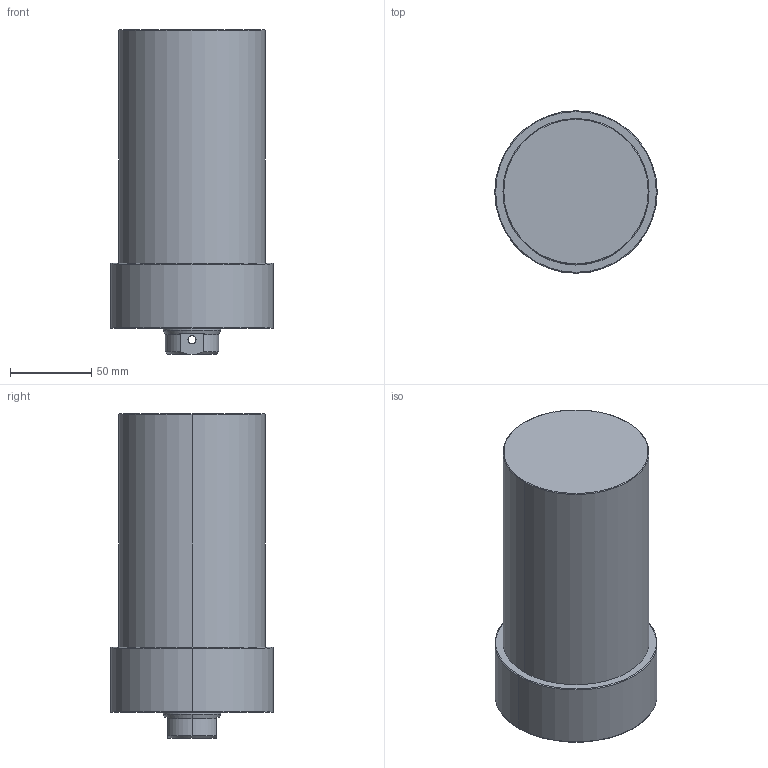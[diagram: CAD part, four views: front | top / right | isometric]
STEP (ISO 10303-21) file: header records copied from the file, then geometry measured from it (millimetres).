
FILE_DESCRIPTION (( 'STEP AP203' ), '1' );
FILE_NAME ('CLLU-090GB-100.STEP', '2020-01-13T05:51:16', ( '' ), ( '' ), 'SwSTEP 2.0', 'SolidWorks 2015', '' );
FILE_SCHEMA (( 'CONFIG_CONTROL_DESIGN' ));
Length unit declared in the file: millimetre
Products named in the file (1): CLLU-090GB-100
Bounding box: 100 x 100 x 200 mm (x, y, z)
Volume: 1223736.6 mm3; surface area: 76315.1 mm2
Topology: 1 solids, 1 shells, 68 faces, 155 edges, 88 vertices
Faces by surface type: cylinder 27, cone 25, plane 10, torus 6
Entity records: 2061 total; most frequent: CARTESIAN_POINT 462, DIRECTION 350, ORIENTED_EDGE 290, AXIS2_PLACEMENT_3D 148, EDGE_CURVE 145, VERTEX_POINT 88, EDGE_LOOP 81, CIRCLE 79
